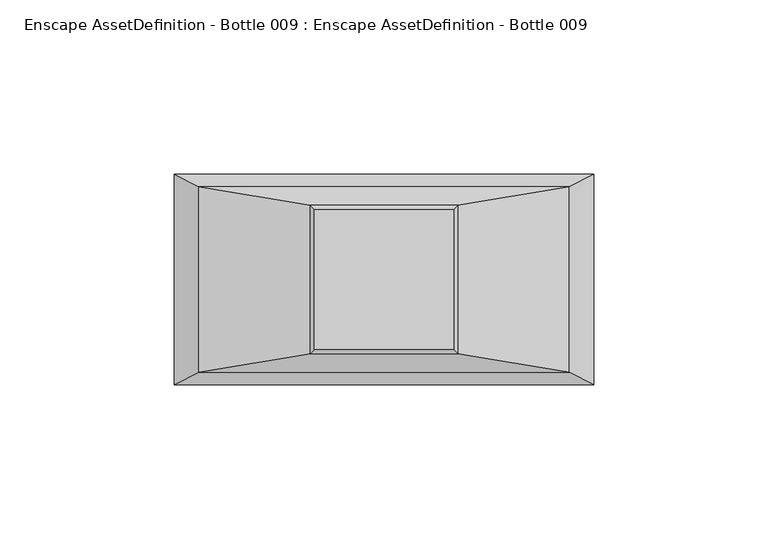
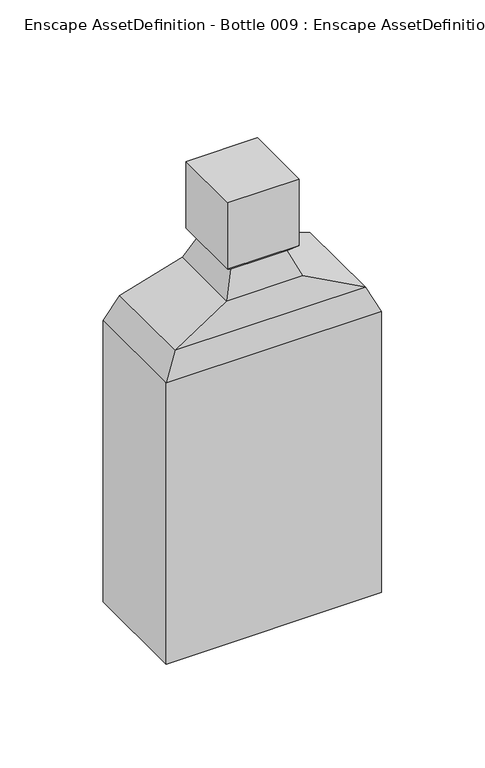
"""IFC4 building model written with IfcOpenShell, lengths in millimetres: geographic element geometry, Enscape AssetDefinition - Bottle 009 : Enscape AssetDefinition - Bottle 009."""

import ifcopenshell
import ifcopenshell.guid

model = None  # the IFC model being written
_history = None  # IfcOwnerHistory: only IFC2X3 demands one
_inside = {}  # id of a spatial element -> (the spatial element, [elements in it])
_under = {}  # id of a project, library or spatial element -> (it, [spatial elements below it])
_declared = {}  # id of a project -> (the project, [libraries it declares])
_typed = {}  # id of a type object -> (the type object, [elements of that type])
_made_of = {}  # id of a material, layer set ... -> (it, [elements and type objects made of it])


def new_model(schema):
    """Start an empty IFC model of exactly this schema.

    Asked for "IFC4X3", IfcOpenShell would pick the latest addendum, in which some entities
    have other attributes; the version numbers below select the first issue.
    IFC2X3 requires an IfcOwnerHistory on every rooted entity: one is made here for all.
    """
    global model, _history
    if schema == "IFC4X3":
        model = ifcopenshell.file(schema_version=(4, 3, 0, 0))
    else:
        model = ifcopenshell.file(schema=schema)
    _inside.clear()
    _under.clear()
    _declared.clear()
    _typed.clear()
    _made_of.clear()
    _history = None
    if model.schema == "IFC2X3":
        org = make("IfcOrganization", Name="unknown")
        user = make(
            "IfcPersonAndOrganization",
            ThePerson=make("IfcPerson", FamilyName="unknown"),
            TheOrganization=org,
        )
        app = make(
            "IfcApplication",
            ApplicationDeveloper=org,
            Version="unknown",
            ApplicationFullName="unknown",
            ApplicationIdentifier="unknown",
        )
        _history = make(
            "IfcOwnerHistory",
            OwningUser=user,
            OwningApplication=app,
            ChangeAction="ADDED",
            CreationDate=0,
        )
    return model


def make(cls, **values):
    """One entity of the class cls with the attributes given. An attribute that is None is left unset."""
    return model.create_entity(
        cls, **{name: value for name, value in values.items() if value is not None}
    )


def rooted(cls, **values):
    """An entity with a GlobalId (a new one), such as an element, a storey or a relation."""
    return make(cls, GlobalId=ifcopenshell.guid.new(), OwnerHistory=_history, **values)


def si_unit(unit_type, name, prefix=None):
    """IfcSIUnit, for example si_unit("LENGTHUNIT", "METRE", prefix="MILLI")."""
    return make("IfcSIUnit", UnitType=unit_type, Prefix=prefix, Name=name)


def assignment(units):
    """IfcUnitAssignment: the units of a project."""
    return None if units is None else make("IfcUnitAssignment", Units=units)


def point(xyz):
    """IfcCartesianPoint."""
    return None if xyz is None else make("IfcCartesianPoint", Coordinates=xyz)


def direction(xyz):
    """IfcDirection."""
    return None if xyz is None else make("IfcDirection", DirectionRatios=xyz)


def frame(location, z_axis=None, x_axis=None):
    """IfcAxis2Placement3D, a coordinate frame: its origin and axes. An axis left out is left unset."""
    return make(
        "IfcAxis2Placement3D",
        Location=point(location),
        Axis=direction(z_axis),
        RefDirection=direction(x_axis),
    )


def origin():
    """The frame at (0, 0, 0) with its axes left unset."""
    return frame((0.0, 0.0, 0.0))


def place(relative_to, where):
    """IfcLocalPlacement: puts the frame where relative to a parent placement (None: the world)."""
    return make(
        "IfcLocalPlacement", PlacementRelTo=relative_to, RelativePlacement=where
    )


def context(
    kind, dimensions, precision=None, world=None, true_north=None, identifier=None
):
    """IfcGeometricRepresentationContext, for example the 3D "Model" context."""
    return make(
        "IfcGeometricRepresentationContext",
        ContextIdentifier=identifier,
        ContextType=kind,
        CoordinateSpaceDimension=dimensions,
        Precision=precision,
        WorldCoordinateSystem=world,
        TrueNorth=true_north,
    )


def project(units=None, contexts=None):
    """IfcProject with its units and contexts."""
    return rooted(
        "IfcProject",
        Name="project",
        RepresentationContexts=contexts,
        UnitsInContext=assignment(units),
    )


def spatial(cls, under=None, at=None, **own):
    """A site, building, storey or space (cls), placed at a placement, below another one or the project."""
    s = rooted(cls, ObjectPlacement=at, **own)
    if under is not None:
        _under.setdefault(under.id(), (under, []))[1].append(s)
    return s


def point_list(points):
    """IfcCartesianPointList2D or 3D."""
    cls = (
        "IfcCartesianPointList2D" if len(points[0]) == 2 else "IfcCartesianPointList3D"
    )
    return make(cls, CoordList=points)


def triangles(points, corners, closed=None, point_numbers=None):
    """IfcTriangulatedFaceSet: each triangle names its three corners, points numbered from 1."""
    return make(
        "IfcTriangulatedFaceSet",
        Coordinates=point_list(points),
        Closed=closed,
        CoordIndex=corners,
        PnIndex=point_numbers,
    )


def shape(context_of_items, identifier, shape_type, items):
    """IfcShapeRepresentation: the items that make up one representation, for example the "Body"."""
    return make(
        "IfcShapeRepresentation",
        ContextOfItems=context_of_items,
        RepresentationIdentifier=identifier,
        RepresentationType=shape_type,
        Items=items,
    )


def source(mapping_origin, context_of_items, identifier, shape_type, items):
    """IfcRepresentationMap: a shape defined once, which mapped items show again and again."""
    return make(
        "IfcRepresentationMap",
        MappingOrigin=mapping_origin,
        MappedRepresentation=shape(context_of_items, identifier, shape_type, items),
    )


def transform(
    local_origin,
    x_axis=None,
    y_axis=None,
    z_axis=None,
    scale=None,
    scale2=None,
    scale3=None,
    uniform=True,
):
    """IfcCartesianTransformationOperator3D, or its non-uniform kind. x_axis, y_axis, z_axis: its Axis1, 2, 3."""
    if uniform:
        return make(
            "IfcCartesianTransformationOperator3D",
            Axis1=direction(x_axis),
            Axis2=direction(y_axis),
            LocalOrigin=point(local_origin),
            Scale=scale,
            Axis3=direction(z_axis),
        )
    return make(
        "IfcCartesianTransformationOperator3DnonUniform",
        Axis1=direction(x_axis),
        Axis2=direction(y_axis),
        LocalOrigin=point(local_origin),
        Scale=scale,
        Axis3=direction(z_axis),
        Scale2=scale2,
        Scale3=scale3,
    )


def mapped(mapping_source, mapping_target):
    """IfcMappedItem: shows the shape of a source again, moved by a transform."""
    return make(
        "IfcMappedItem", MappingSource=mapping_source, MappingTarget=mapping_target
    )


def made_of(thing, what):
    """Note that an element or type object is made of a material, layer set ...; save() writes the relation."""
    if what is not None:
        _made_of.setdefault(what.id(), (what, []))[1].append(thing)
    return thing


def element(
    cls,
    number,
    at=None,
    inside=None,
    cuts=None,
    type_object=None,
    material=None,
    context=None,
    identifier="Body",
    shape_type=None,
    held_by="IfcProductDefinitionShape",
    body=None,
    shapes=None,
    **own,
):
    """One element of the class cls, such as IfcWall. Its Tag is "e" and its number.

    at: its placement. inside: the storey or other place that contains it. cuts: it is an
    opening in that element (IfcRelVoidsElement). A single representation is given by context,
    identifier, shape_type and body (its items); several are given by shapes. held_by: the class
    of the entity that holds the representations. save() writes the other relations.
    """
    e = rooted(cls, Tag="e%d" % number, ObjectPlacement=at, **own)
    if body is not None:
        shapes = [shape(context, identifier, shape_type, body)]
    if shapes is not None:
        e.Representation = make(held_by, Representations=shapes)
    if inside is not None:
        _inside.setdefault(inside.id(), (inside, []))[1].append(e)
    if cuts is not None:
        rooted(
            "IfcRelVoidsElement", RelatingBuildingElement=cuts, RelatedOpeningElement=e
        )
    if type_object is not None:
        _typed.setdefault(type_object.id(), (type_object, []))[1].append(e)
    return made_of(e, material)


def aggregate(whole, parts):
    """IfcRelAggregates: a whole, such as a stair, and the parts it consists of."""
    return rooted("IfcRelAggregates", RelatingObject=whole, RelatedObjects=parts)


def save(model, path):
    """Write the relations noted so far, then the file.

    IfcRelAggregates (storeys below a building ...), IfcRelContainedInSpatialStructure (elements
    in a storey), IfcRelDefinesByType, IfcRelAssociatesMaterial and IfcRelDeclares: one each for
    every whole, place, type object, material and project.
    """
    for whole, parts in _under.values():
        aggregate(whole, parts)
    for where, things in _inside.values():
        rooted(
            "IfcRelContainedInSpatialStructure",
            RelatedElements=things,
            RelatingStructure=where,
        )
    for kind, things in _typed.values():
        rooted("IfcRelDefinesByType", RelatedObjects=things, RelatingType=kind)
    for what, things in _made_of.values():
        rooted("IfcRelAssociatesMaterial", RelatedObjects=things, RelatingMaterial=what)
    for by, libraries in _declared.values():
        rooted("IfcRelDeclares", RelatingContext=by, RelatedDefinitions=libraries)
    model.write(path)


def enscape_assetdefinition_bottle_009_enscape_assetdefinition_91462ea6(model_context):
    return source(origin(), model_context, "Body", "Tessellation", [
        triangles([(-60.2304261, 30.2074153, 0.0), (60.2304397, -30.2074153, 165.9781865), (-60.2304397, 30.2074153, 165.9781865), (-60.2304397, -30.2074153, 165.9781865), (-60.2304261, -30.2074153, 0.0), (-53.1358555, -26.649275, 180.6113594), (60.2304261, 30.2074153, 0.0), (60.2304261, -30.2074153, 0.0), (60.2304397, 30.2074153, 165.9781865), (53.1358555, 26.649275, 180.6113594), (-53.1358555, 26.649275, 180.6113594), (53.1358555, -26.649275, 180.6113594), (15.7393145, -15.7875004, 208.7709596), (21.2160447, 21.2809957, 195.2445323), (21.2160447, -21.2809957, 195.2445323), (-21.2160447, -21.2809957, 195.2445323), (-21.2160447, 21.2809957, 195.2445323), (-15.7393145, 15.7875004, 208.7709596), (15.7393145, 15.7875004, 208.7709596), (-15.7393145, -15.7875004, 208.7709596), (19.9646607, -20.025783, 212.7059484), (19.9646607, 20.025783, 212.7059484), (19.9646607, 20.025783, 252.0556177), (19.9646607, -20.025783, 252.0556177), (-19.9646607, -20.025783, 252.0556177), (-19.9646607, -20.025783, 212.7059484), (-19.9646607, 20.025783, 212.7059484), (-19.9646607, 20.025783, 252.0556177)], [[28, 25, 24], [28, 24, 23], [27, 28, 23], [26, 25, 28], [26, 28, 27], [21, 24, 25], [21, 25, 26], [22, 23, 24], [27, 23, 22], [22, 24, 21], [18, 27, 22], [20, 26, 27], [20, 27, 18], [13, 21, 26], [13, 26, 20], [19, 22, 21], [18, 22, 19], [19, 21, 13], [17, 18, 19], [17, 16, 20], [6, 16, 17], [17, 20, 18], [17, 19, 14], [15, 13, 20], [15, 14, 19], [15, 20, 16], [6, 15, 16], [15, 19, 13], [6, 12, 15], [9, 10, 12], [10, 14, 15], [10, 15, 12], [10, 17, 14], [10, 11, 17], [6, 17, 11], [3, 11, 10], [3, 10, 9], [3, 9, 7], [9, 8, 7], [2, 12, 6], [9, 2, 8], [9, 12, 2], [7, 8, 5], [2, 5, 8], [7, 5, 1], [3, 7, 1], [4, 6, 11], [2, 4, 5], [4, 3, 1], [4, 11, 3], [2, 6, 4], [4, 1, 5]]),
    ])


if __name__ == "__main__":
    model = new_model("IFC4")
    model_context = context("Model", 3, world=origin())
    ifc_project = project(units=[si_unit("LENGTHUNIT", "METRE", prefix="MILLI")], contexts=[model_context])
    site = spatial("IfcSite", under=ifc_project)
    building = spatial("IfcBuilding", under=site)
    placement = place(None, origin())
    enscape_assetdefinition_bottle_009_enscape_assetdefinition_shape = enscape_assetdefinition_bottle_009_enscape_assetdefinition_91462ea6(model_context)
    element("IfcGeographicElement", 1, ObjectType="Enscape AssetDefinition - Bottle 009 : Enscape AssetDefinition - Bottle 009", at=placement, inside=building, context=model_context, shape_type="MappedRepresentation", body=[
        mapped(enscape_assetdefinition_bottle_009_enscape_assetdefinition_shape, transform((0.0, 0.0, 0.0), x_axis=(1.0, 0.0, 0.0), y_axis=(0.0, 1.0, 0.0), z_axis=(0.0, 0.0, 1.0))),
    ])
    save(model, "model.ifc")
